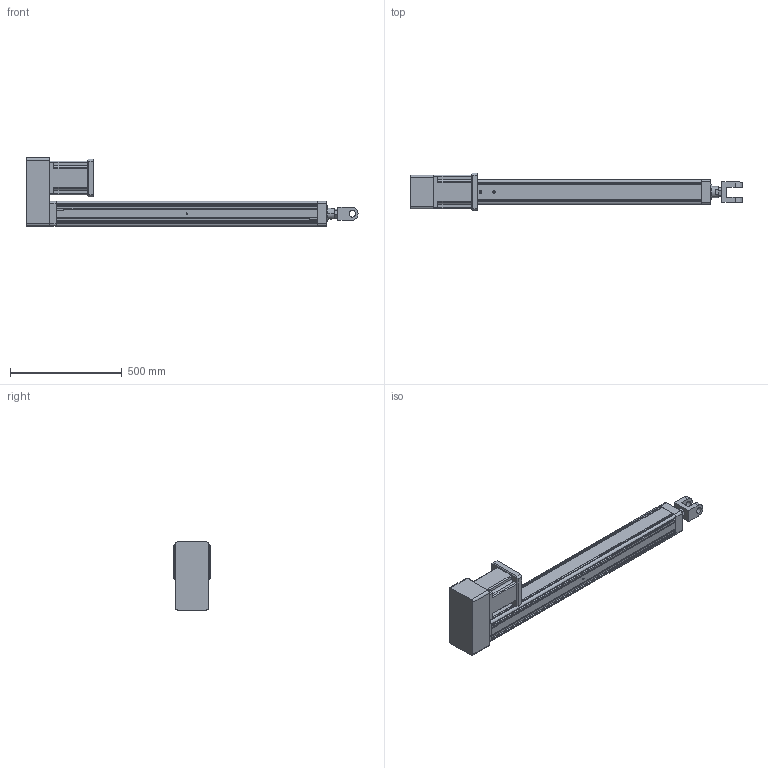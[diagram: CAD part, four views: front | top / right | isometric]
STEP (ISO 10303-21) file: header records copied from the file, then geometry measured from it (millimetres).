
FILE_DESCRIPTION (( 'STEP AP203' ), '1' );
FILE_NAME ('YRJ110-L1000-H1K4.STEP', '2020-01-04T05:57:39', ( 'User' ), ( 'China' ), 'SwSTEP 2.0', 'SolidWorks 2016', '' );
FILE_SCHEMA (( 'CONFIG_CONTROL_DESIGN' ));
Length unit declared in the file: millimetre
Products named in the file (7): 095-100俴最倰第; H1-110-1; H1-110-2; YRJ110-L1000-H1K4; 萇儂碟-110; 142熬厒儂; K4-110
Assembly tree (6 placements, depth 2):
  YRJ110-L1000-H1K4
    095-100俴最倰第
    H1-110-1
    H1-110-2
    萇儂碟-110
    142熬厒儂
    K4-110
Bounding box: 1486 x 168 x 305.5 mm (x, y, z)
Volume: 14838488 mm3; surface area: 1522747.5 mm2
Topology: 6 solids, 6 shells, 331 faces, 908 edges, 581 vertices
Faces by surface type: plane 176, cylinder 120, cone 35
Entity records: 11402 total; most frequent: CARTESIAN_POINT 2145, DIRECTION 1797, ORIENTED_EDGE 1768, EDGE_CURVE 884, LINE 607, VECTOR 607, AXIS2_PLACEMENT_3D 595, VERTEX_POINT 581
